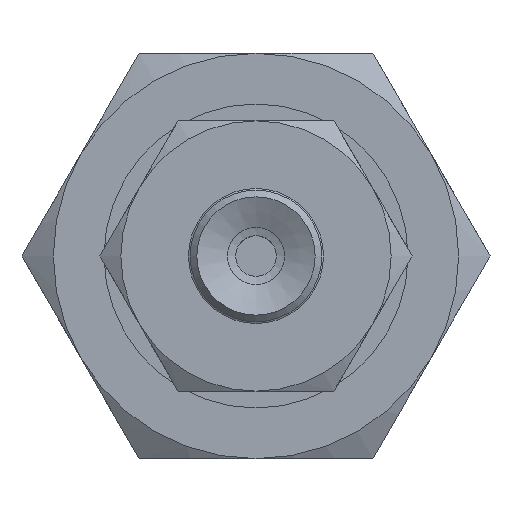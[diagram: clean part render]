
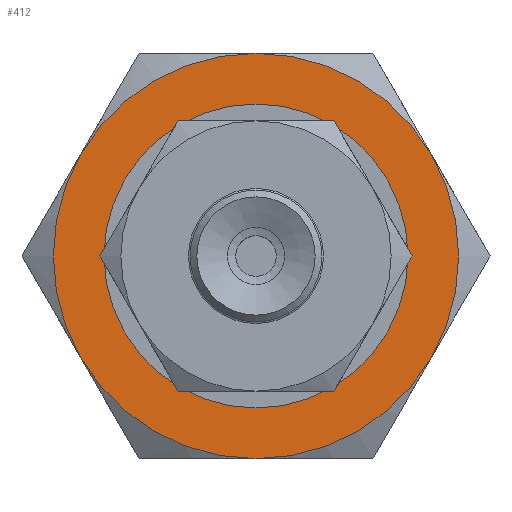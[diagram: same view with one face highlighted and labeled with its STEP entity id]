
A CAD part, front view. The second image highlights one B-rep face of the part: STEP entity #412.
In plain terms, the highlighted planar face has unit normal (0, -1, 0) as drawn and (-1, 0, 0) by its records, which use the part's own axes.
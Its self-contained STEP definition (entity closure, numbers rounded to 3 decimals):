
#412=ADVANCED_FACE('',(#547,#548),#549,.F.);
#547=FACE_BOUND('',#826,.T.);
#548=FACE_OUTER_BOUND('',#827,.T.);
#549=PLANE('',#828);
#826=EDGE_LOOP('',(#1208));
#827=EDGE_LOOP('',(#1209,#1210,#1211,#1212,#1213,#1214));
#828=AXIS2_PLACEMENT_3D('',#1215,#1216,#1217);
#1208=ORIENTED_EDGE('',*,*,#1900,.T.);
#1209=ORIENTED_EDGE('',*,*,#1901,.F.);
#1210=ORIENTED_EDGE('',*,*,#1902,.F.);
#1211=ORIENTED_EDGE('',*,*,#1903,.F.);
#1212=ORIENTED_EDGE('',*,*,#1904,.F.);
#1213=ORIENTED_EDGE('',*,*,#1905,.F.);
#1214=ORIENTED_EDGE('',*,*,#1898,.F.);
#1215=CARTESIAN_POINT('',(0.,0.0,0.0));
#1216=DIRECTION('',(1.0,0.0,0.0));
#1217=DIRECTION('',(0.0,1.0,0.0));
#1898=EDGE_CURVE('',#2132,#2135,#2136,.T.);
#1900=EDGE_CURVE('',#2138,#2138,#2139,.T.);
#1901=EDGE_CURVE('',#2123,#2132,#2140,.T.);
#1902=EDGE_CURVE('',#2141,#2123,#2142,.T.);
#1903=EDGE_CURVE('',#2143,#2141,#2144,.T.);
#1904=EDGE_CURVE('',#2145,#2143,#2146,.T.);
#1905=EDGE_CURVE('',#2135,#2145,#2147,.T.);
#2123=VERTEX_POINT('',#2521);
#2132=VERTEX_POINT('',#2571);
#2135=VERTEX_POINT('',#2594);
#2136=CIRCLE('',#2595,6.0);
#2138=VERTEX_POINT('',#2607);
#2139=CIRCLE('',#2608,4.0);
#2140=CIRCLE('',#2609,6.0);
#2141=VERTEX_POINT('',#2610);
#2142=CIRCLE('',#2611,6.0);
#2143=VERTEX_POINT('',#2612);
#2144=CIRCLE('',#2613,6.0);
#2145=VERTEX_POINT('',#2614);
#2146=CIRCLE('',#2615,6.0);
#2147=CIRCLE('',#2616,6.0);
#2521=CARTESIAN_POINT('',(0.,5.196,-3.0));
#2571=CARTESIAN_POINT('',(0.,5.196,3.0));
#2594=CARTESIAN_POINT('',(0.,0.0,6.0));
#2595=AXIS2_PLACEMENT_3D('',#3253,#3254,#3255);
#2607=CARTESIAN_POINT('',(0.,0.0,-4.0));
#2608=AXIS2_PLACEMENT_3D('',#3256,#3257,#3258);
#2609=AXIS2_PLACEMENT_3D('',#3259,#3260,#3261);
#2610=CARTESIAN_POINT('',(0.,0.0,-6.0));
#2611=AXIS2_PLACEMENT_3D('',#3262,#3263,#3264);
#2612=CARTESIAN_POINT('',(0.,-5.196,-3.0));
#2613=AXIS2_PLACEMENT_3D('',#3265,#3266,#3267);
#2614=CARTESIAN_POINT('',(0.,-5.196,3.0));
#2615=AXIS2_PLACEMENT_3D('',#3268,#3269,#3270);
#2616=AXIS2_PLACEMENT_3D('',#3271,#3272,#3273);
#3253=CARTESIAN_POINT('',(0.,0.0,0.0));
#3254=DIRECTION('',(1.0,0.0,0.0));
#3255=DIRECTION('',(0.0,0.0,-1.0));
#3256=CARTESIAN_POINT('',(0.,0.0,0.0));
#3257=DIRECTION('',(1.0,0.0,0.0));
#3258=DIRECTION('',(0.0,0.0,-1.0));
#3259=CARTESIAN_POINT('',(0.,0.0,0.0));
#3260=DIRECTION('',(1.0,0.0,0.0));
#3261=DIRECTION('',(0.0,0.0,-1.0));
#3262=CARTESIAN_POINT('',(0.,0.0,0.0));
#3263=DIRECTION('',(1.0,0.0,0.0));
#3264=DIRECTION('',(0.0,0.0,-1.0));
#3265=CARTESIAN_POINT('',(0.,0.0,0.0));
#3266=DIRECTION('',(1.0,0.0,0.0));
#3267=DIRECTION('',(0.0,0.0,-1.0));
#3268=CARTESIAN_POINT('',(0.,0.0,0.0));
#3269=DIRECTION('',(1.0,0.0,0.0));
#3270=DIRECTION('',(0.0,0.0,-1.0));
#3271=CARTESIAN_POINT('',(0.,0.0,0.0));
#3272=DIRECTION('',(1.0,0.0,0.0));
#3273=DIRECTION('',(0.0,0.0,-1.0));
